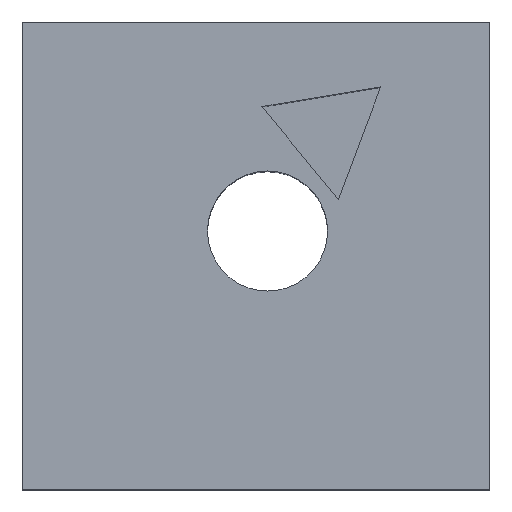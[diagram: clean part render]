
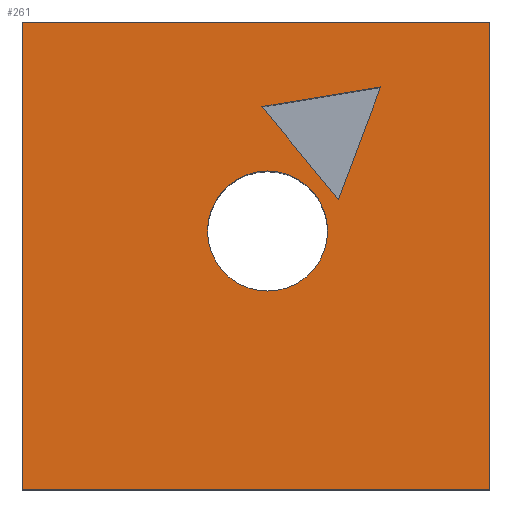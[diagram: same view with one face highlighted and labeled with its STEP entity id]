
A CAD part, top view. The second image highlights one B-rep face of the part: STEP entity #261.
In plain terms, the highlighted planar face has unit normal (0, 0, 1).
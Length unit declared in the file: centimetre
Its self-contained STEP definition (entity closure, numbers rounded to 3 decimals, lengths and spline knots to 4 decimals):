
#32 = ORIENTED_EDGE ( 'NONE', *, *, #826, .T. ) ;
#40 = AXIS2_PLACEMENT_3D ( 'NONE', #1011, #607, #916 ) ;
#44 = EDGE_LOOP ( 'NONE', ( #384, #550 ) ) ;
#46 = CARTESIAN_POINT ( 'NONE',  ( 766.8636, 861.146, 1000. ) ) ;
#50 = CIRCLE ( 'NONE', #463, 128.5027 ) ;
#108 = CARTESIAN_POINT ( 'NONE',  ( 512.6898, 818.8367, 1000. ) ) ;
#120 = PLANE ( 'NONE',  #40 ) ;
#126 = VERTEX_POINT ( 'NONE', #927 ) ;
#145 = EDGE_CURVE ( 'NONE', #721, #413, #1007, .T. ) ;
#167 = DIRECTION ( 'NONE',  ( 0.351, 0.936, 0. ) ) ;
#171 = LINE ( 'NONE', #326, #882 ) ;
#172 = VERTEX_POINT ( 'NONE', #760 ) ;
#177 = DIRECTION ( 'NONE',  ( 1., 0., 0. ) ) ;
#197 = FACE_BOUND ( 'NONE', #44, .T. ) ;
#217 = CARTESIAN_POINT ( 'NONE',  ( 766.8636, 861.146, 1000. ) ) ;
#221 = DIRECTION ( 'NONE',  ( -1., 0., 0. ) ) ;
#232 = VERTEX_POINT ( 'NONE', #108 ) ;
#233 = CIRCLE ( 'NONE', #648, 128.5027 ) ;
#250 = VECTOR ( 'NONE', #439, 100. ) ;
#256 = LINE ( 'NONE', #287, #506 ) ;
#261 = ADVANCED_FACE ( 'NONE', ( #775, #197, #542 ), #120, .T. ) ;
#262 = LINE ( 'NONE', #895, #492 ) ;
#280 = ORIENTED_EDGE ( 'NONE', *, *, #145, .T. ) ;
#287 = CARTESIAN_POINT ( 'NONE',  ( 1000., 1000., 1000. ) ) ;
#303 = DIRECTION ( 'NONE',  ( 0., 0., 1. ) ) ;
#324 = CARTESIAN_POINT ( 'NONE',  ( 0., 0., 1000. ) ) ;
#326 = CARTESIAN_POINT ( 'NONE',  ( 676.4177, 619.8704, 1000. ) ) ;
#328 = CARTESIAN_POINT ( 'NONE',  ( 1000., 1000., 1000. ) ) ;
#370 = ORIENTED_EDGE ( 'NONE', *, *, #700, .F. ) ;
#377 = DIRECTION ( 'NONE',  ( 0., -1., 0. ) ) ;
#378 = CARTESIAN_POINT ( 'NONE',  ( 524.6633, 552.6424, 1000. ) ) ;
#384 = ORIENTED_EDGE ( 'NONE', *, *, #582, .F. ) ;
#413 = VERTEX_POINT ( 'NONE', #324 ) ;
#439 = DIRECTION ( 'NONE',  ( 0.635, -0.772, 0. ) ) ;
#454 = ORIENTED_EDGE ( 'NONE', *, *, #894, .T. ) ;
#455 = VECTOR ( 'NONE', #941, 100. ) ;
#463 = AXIS2_PLACEMENT_3D ( 'NONE', #378, #303, #1008 ) ;
#471 = EDGE_CURVE ( 'NONE', #232, #921, #598, .T. ) ;
#472 = CARTESIAN_POINT ( 'NONE',  ( 1000., 0., 1000. ) ) ;
#492 = VECTOR ( 'NONE', #177, 100. ) ;
#493 = CARTESIAN_POINT ( 'NONE',  ( 0., 1000., 1000. ) ) ;
#506 = VECTOR ( 'NONE', #711, 100. ) ;
#513 = ORIENTED_EDGE ( 'NONE', *, *, #917, .F. ) ;
#521 = CARTESIAN_POINT ( 'NONE',  ( 512.6898, 818.8367, 1000. ) ) ;
#538 = CARTESIAN_POINT ( 'NONE',  ( 524.6633, 552.6424, 1000. ) ) ;
#542 = FACE_OUTER_BOUND ( 'NONE', #658, .T. ) ;
#550 = ORIENTED_EDGE ( 'NONE', *, *, #650, .F. ) ;
#582 = EDGE_CURVE ( 'NONE', #126, #172, #50, .T. ) ;
#598 = LINE ( 'NONE', #521, #250 ) ;
#603 = VERTEX_POINT ( 'NONE', #46 ) ;
#604 = VECTOR ( 'NONE', #377, 100. ) ;
#607 = DIRECTION ( 'NONE',  ( 0., 0., 1. ) ) ;
#619 = VECTOR ( 'NONE', #221, 100. ) ;
#648 = AXIS2_PLACEMENT_3D ( 'NONE', #538, #1017, #790 ) ;
#650 = EDGE_CURVE ( 'NONE', #172, #126, #233, .T. ) ;
#658 = EDGE_LOOP ( 'NONE', ( #280, #32, #454, #1018 ) ) ;
#679 = EDGE_CURVE ( 'NONE', #1009, #721, #1013, .T. ) ;
#700 = EDGE_CURVE ( 'NONE', #921, #603, #171, .T. ) ;
#708 = ORIENTED_EDGE ( 'NONE', *, *, #471, .F. ) ;
#711 = DIRECTION ( 'NONE',  ( 0., 1., 0. ) ) ;
#721 = VERTEX_POINT ( 'NONE', #493 ) ;
#760 = CARTESIAN_POINT ( 'NONE',  ( 396.1607, 552.6424, 1000. ) ) ;
#775 = FACE_BOUND ( 'NONE', #906, .T. ) ;
#790 = DIRECTION ( 'NONE',  ( 1., 0., 0. ) ) ;
#826 = EDGE_CURVE ( 'NONE', #413, #936, #262, .T. ) ;
#840 = LINE ( 'NONE', #217, #455 ) ;
#849 = CARTESIAN_POINT ( 'NONE',  ( 676.4177, 619.8704, 1000. ) ) ;
#882 = VECTOR ( 'NONE', #167, 100. ) ;
#894 = EDGE_CURVE ( 'NONE', #936, #1009, #256, .T. ) ;
#895 = CARTESIAN_POINT ( 'NONE',  ( 0., 0., 1000. ) ) ;
#906 = EDGE_LOOP ( 'NONE', ( #370, #708, #513 ) ) ;
#916 = DIRECTION ( 'NONE',  ( 1., 0., 0. ) ) ;
#917 = EDGE_CURVE ( 'NONE', #603, #232, #840, .T. ) ;
#921 = VERTEX_POINT ( 'NONE', #849 ) ;
#927 = CARTESIAN_POINT ( 'NONE',  ( 653.166, 552.6424, 1000. ) ) ;
#932 = CARTESIAN_POINT ( 'NONE',  ( 0., 1000., 1000. ) ) ;
#936 = VERTEX_POINT ( 'NONE', #472 ) ;
#941 = DIRECTION ( 'NONE',  ( -0.986, -0.164, 0. ) ) ;
#945 = CARTESIAN_POINT ( 'NONE',  ( 0., 1000., 1000. ) ) ;
#1007 = LINE ( 'NONE', #932, #604 ) ;
#1008 = DIRECTION ( 'NONE',  ( 1., 0., 0. ) ) ;
#1009 = VERTEX_POINT ( 'NONE', #328 ) ;
#1011 = CARTESIAN_POINT ( 'NONE',  ( 0., 0., 1000. ) ) ;
#1013 = LINE ( 'NONE', #945, #619 ) ;
#1017 = DIRECTION ( 'NONE',  ( 0., 0., 1. ) ) ;
#1018 = ORIENTED_EDGE ( 'NONE', *, *, #679, .T. ) ;
